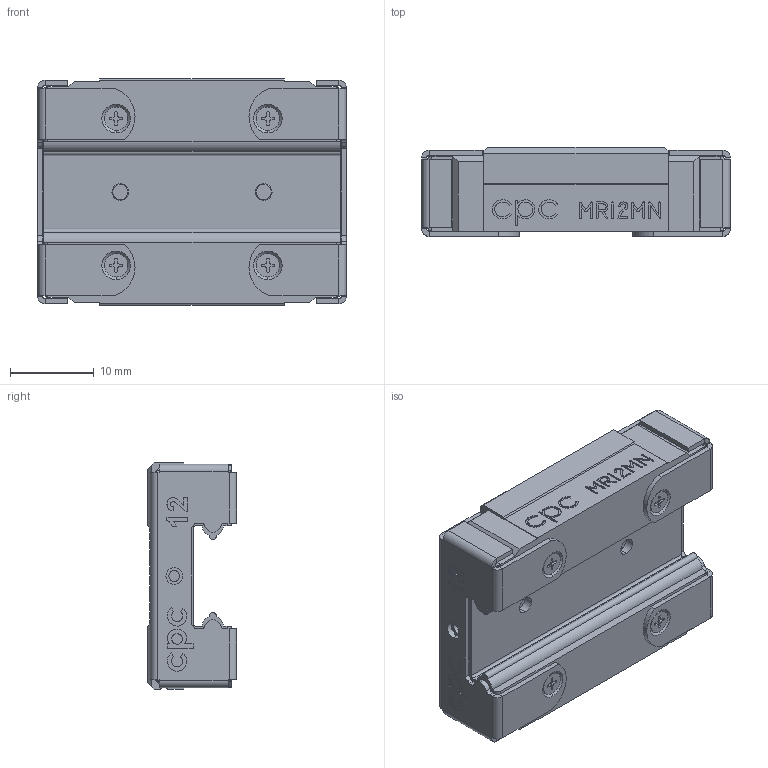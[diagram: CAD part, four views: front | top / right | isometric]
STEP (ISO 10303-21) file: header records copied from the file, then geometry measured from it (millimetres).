
FILE_DESCRIPTION (( 'STEP AP203' ), '1' );
FILE_NAME ('12MN-EE_EZ.STEP', '2009-07-29T08:17:26', ( 'User' ), ( '' ), 'SwSTEP 2.0', 'SolidWorks 2007', '' );
FILE_SCHEMA (( 'CONFIG_CONTROL_DESIGN' ));
Length unit declared in the file: millimetre
Products named in the file (1): 12MN-EE_EZ
Bounding box: 36.8 x 10.63 x 27 mm (x, y, z)
Volume: 7651.2 mm3; surface area: 6355.1 mm2
Topology: 9 solids, 9 shells, 1075 faces, 2833 edges, 1842 vertices
Faces by surface type: plane 481, bspline 372, cylinder 162, cone 48, torus 12
Entity records: 50120 total; most frequent: CARTESIAN_POINT 25791, ORIENTED_EDGE 5650, DIRECTION 3857, EDGE_CURVE 2825, VERTEX_POINT 1842, LINE 1673, VECTOR 1673, EDGE_LOOP 1169
